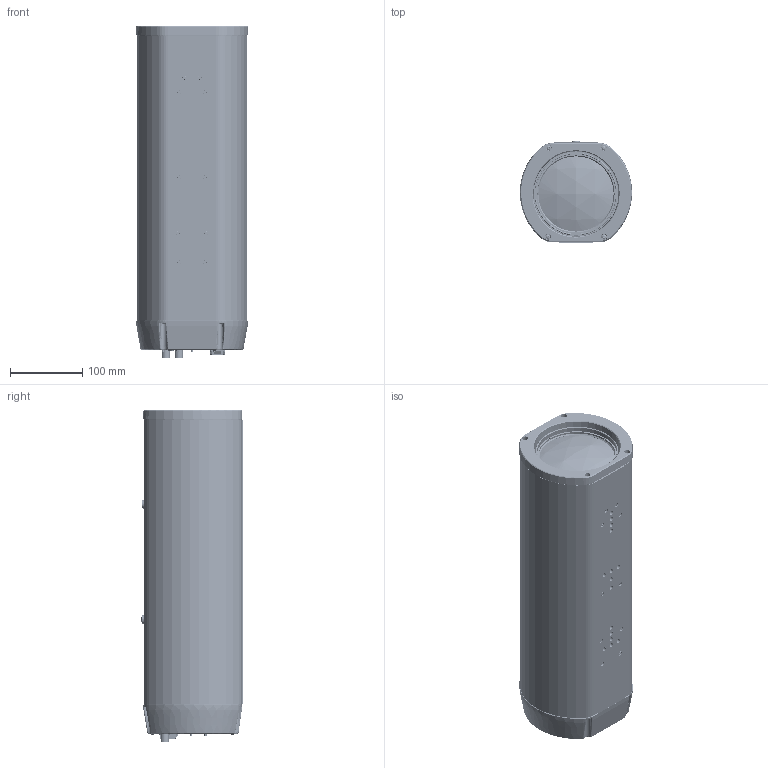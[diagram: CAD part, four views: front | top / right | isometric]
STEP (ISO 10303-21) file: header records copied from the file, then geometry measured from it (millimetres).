
FILE_DESCRIPTION (( 'STEP AP214' ), '1' );
FILE_NAME ('sx1600_outline.STEP', '2022-12-16T05:24:24', ( '' ), ( '' ), 'SwSTEP 2.0', 'SolidWorks 2021', '' );
FILE_SCHEMA (( 'AUTOMOTIVE_DESIGN' ));
Length unit declared in the file: millimetre
Products named in the file (10): washer; cover_front; M2_5_TRUSS; lens_assy_sx1600_外部公開用; M4; M2_5; cover_sx1600; M3_14; sx1600_outline; camera_assy_SX1600_外部公開用
Assembly tree (26 placements, depth 2):
  sx1600_outline
    camera_assy_SX1600_外部公開用
    lens_assy_sx1600_外部公開用
    cover_front
    cover_sx1600
    washer  x2
    M4  x2
    M2_5_TRUSS  x4
    M3_14  x10
    M2_5  x4
Bounding box: 156.01 x 141.57 x 460.95 mm (x, y, z)
Volume: 681760.7 mm3; surface area: 567495.6 mm2
Topology: 25 solids, 107 shells, 8447 faces, 22015 edges, 14083 vertices
Faces by surface type: plane 4593, cylinder 1848, cone 759, bspline 755, torus 430, sphere 62
Entity records: 324740 total; most frequent: CARTESIAN_POINT 97772, ORIENTED_EDGE 41950, DIRECTION 35595, EDGE_CURVE 20991, VERTEX_POINT 13435, AXIS2_PLACEMENT_3D 12447, VECTOR 10701, LINE 10701
